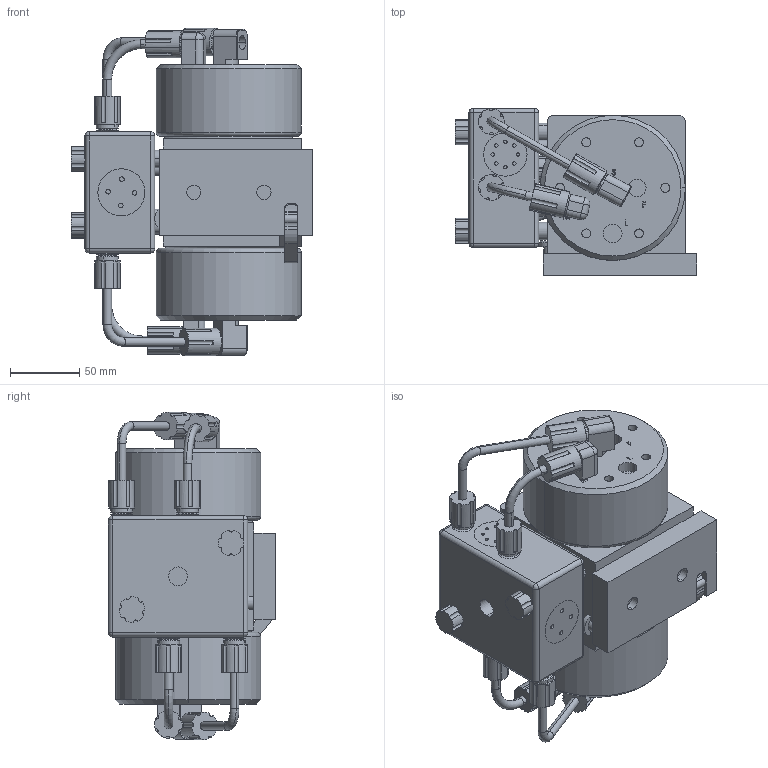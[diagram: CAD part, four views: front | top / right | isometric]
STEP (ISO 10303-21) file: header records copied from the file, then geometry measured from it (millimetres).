
FILE_DESCRIPTION (( 'STEP AP214' ), '1' );
FILE_NAME ('psa030-t-fitting.STEP', '2012-11-26T17:58:15', ( '' ), ( '' ), 'SwSTEP 2.0', 'SolidWorks 2012', '' );
FILE_SCHEMA (( 'AUTOMOTIVE_DESIGN' ));
Length unit declared in the file: inch
Products named in the file (1): psa030-t-fitting
Bounding box: 174.52 x 120.98 x 236.81 mm (x, y, z)
Volume: 2298484.9 mm3; surface area: 204857.7 mm2
Topology: 2 solids, 13 shells, 1091 faces, 2758 edges, 1799 vertices
Faces by surface type: plane 480, cylinder 422, bspline 83, cone 82, torus 12, sphere 12
Entity records: 45690 total; most frequent: CARTESIAN_POINT 10120, DIRECTION 5714, ORIENTED_EDGE 5492, EDGE_CURVE 2746, AXIS2_PLACEMENT_3D 2146, VERTEX_POINT 1799, LINE 1422, VECTOR 1422
